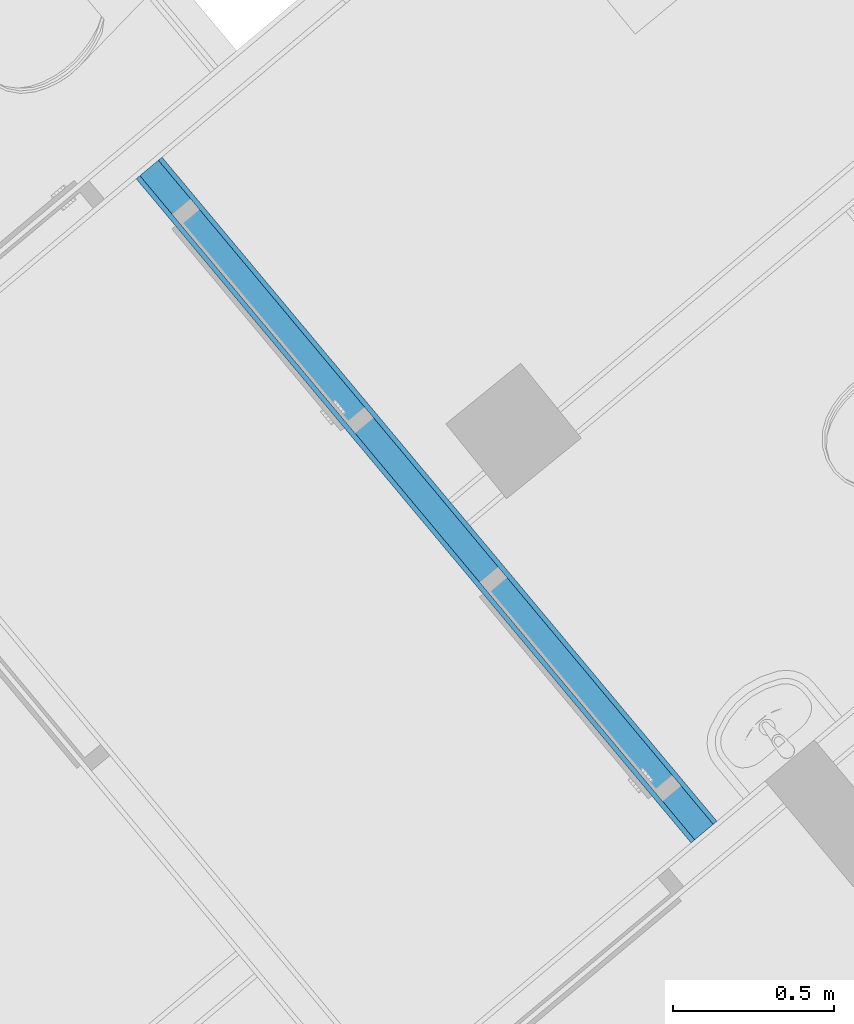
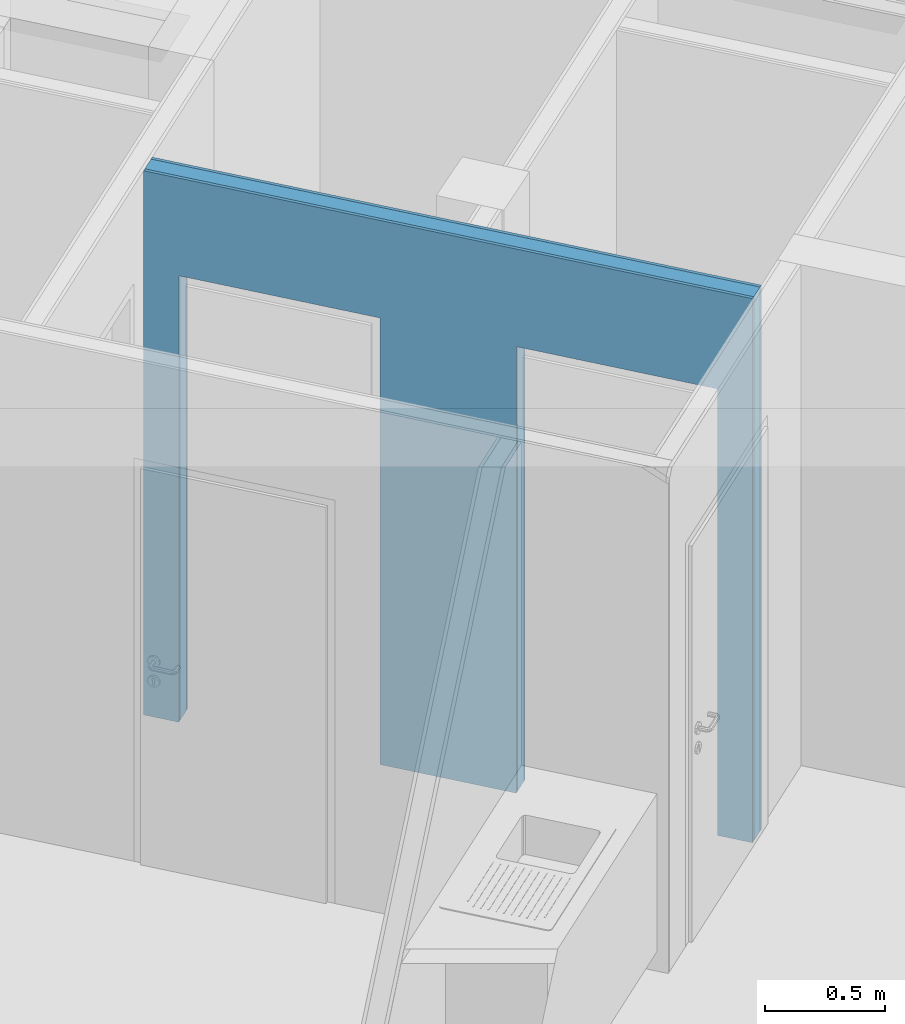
# One storey, part 11 of 53: 3 building element parts, 2 openings, 1 element without a shape of its own.
"""IFC4 building model written with IfcOpenShell, lengths in metres."""

from ifc_helpers import new_model, entity, si_unit, converted_unit, derived_unit, direction, frame, origin_with_axes, place, context, subcontext, project, spatial, polygons, material, type_object, element, aggregate, save


model = new_model("IFC4")

# Units and contexts
model_context = context("Model", 3, precision=1e-05, world=origin_with_axes(), true_north=direction((0.0, 1.0)))
body_context = subcontext(model_context, "Body", "Model", "MODEL_VIEW")
ifc_project = project(units=[si_unit("LENGTHUNIT", "METRE"), si_unit("AREAUNIT", "SQUARE_METRE"), si_unit("VOLUMEUNIT", "CUBIC_METRE"), converted_unit("PLANEANGLEUNIT", "DEGREE", entity("IfcPlaneAngleMeasure", 0.0174532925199), si_unit("PLANEANGLEUNIT", "RADIAN"), dimensions=[0, 0, 0, 0, 0, 0, 0]), converted_unit("TIMEUNIT", "Year", entity("IfcTimeMeasure", 31556926.0), si_unit("TIMEUNIT", "SECOND"), dimensions=[0, 0, 1, 0, 0, 0, 0]), si_unit("MASSUNIT", "GRAM", prefix="KILO"), si_unit("THERMODYNAMICTEMPERATUREUNIT", "DEGREE_CELSIUS"), si_unit("LUMINOUSINTENSITYUNIT", "LUMEN"), si_unit("ENERGYUNIT", "JOULE", prefix="MEGA"), derived_unit("THERMALCONDUCTANCEUNIT", [(si_unit("POWERUNIT", "WATT"), 1), (si_unit("LENGTHUNIT", "METRE"), -1), (si_unit("THERMODYNAMICTEMPERATUREUNIT", "KELVIN"), -1)]), derived_unit("SPECIFICHEATCAPACITYUNIT", [(si_unit("ENERGYUNIT", "JOULE"), 1), (si_unit("MASSUNIT", "GRAM", prefix="KILO"), -1), (si_unit("THERMODYNAMICTEMPERATUREUNIT", "KELVIN"), -1)]), derived_unit("MASSDENSITYUNIT", [(si_unit("MASSUNIT", "GRAM", prefix="KILO"), 1), (si_unit("VOLUMEUNIT", "CUBIC_METRE"), -1)])], contexts=[model_context])

# Site, building, storey
site_placement = place(None, frame((-0.00153261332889, -0.00661245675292, 0.0), z_axis=(0.0, 0.0, 1.0), x_axis=(1.0, 0.0, 0.0)))
site = spatial("IfcSite", under=ifc_project, at=site_placement, Name="Gelände", CompositionType="ELEMENT")
building_placement = place(site_placement, origin_with_axes())
building = spatial("IfcBuilding", under=site, at=building_placement, Name="Gebäude", CompositionType="ELEMENT")
storey_placement = place(building_placement, frame((0.0, 0.0, 2.74), z_axis=(0.0, 0.0, 1.0), x_axis=(1.0, 0.0, 0.0)))
storey = spatial("IfcBuildingStorey", under=building, at=storey_placement, Name="OG1", CompositionType="ELEMENT", Elevation=2.74)

# Wall, openings, building element parts
wall_type = type_object("IfcWallType", Name="IW LB 01 Leichtbautrennwand einfach 10,5 cm 105", PredefinedType="NOTDEFINED")
wall_placement = place(storey_placement, frame((-1.00185448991, 17.6693449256, 0.0), z_axis=(0.0, 0.0, 1.0), x_axis=(-0.641209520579, 0.767365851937, 0.0)))
wall = element("IfcWall", 1, at=wall_placement, inside=storey, type_object=wall_type, Name="Wand-012", PredefinedType="NOTDEFINED")
opening_1_placement = place(wall_placement, frame((0.600343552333, 0.0, 0.22), z_axis=(0.0, 0.0, 1.0), x_axis=(1.0, 0.0, 0.0)))
element("IfcOpeningElement", 2, at=opening_1_placement, cuts=wall, Name="Tür-016", context=body_context, identifier="Reference", shape_type="Tessellation", body=[
    polygons([(-0.445, -1.32697699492, 2.045), (-0.445, -1.32697699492, -0.22), (0.445, -1.32697699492, -0.22), (0.445, -1.32697699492, 2.045), (-0.445, 1.43197699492, 2.045), (-0.445, 1.43197699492, -0.22), (0.445, 1.43197699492, -0.22), (0.445, 1.43197699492, 2.045)], [[[1, 2, 3, 4]], [[5, 6, 2, 1]], [[6, 7, 3, 2]], [[7, 8, 4, 3]], [[8, 5, 1, 4]], [[7, 6, 5, 8]]], closed=True),
])
opening_2_placement = place(wall_placement, frame((2.09376015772, 0.0, 0.22), z_axis=(0.0, 0.0, 1.0), x_axis=(1.0, 0.0, 0.0)))
element("IfcOpeningElement", 3, at=opening_2_placement, cuts=wall, Name="Tür-016", context=body_context, identifier="Reference", shape_type="Tessellation", body=[
    polygons([(-0.445, -1.32697699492, 2.045), (-0.445, -1.32697699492, -0.22), (0.445, -1.32697699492, -0.22), (0.445, -1.32697699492, 2.045), (-0.445, 1.43197699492, 2.045), (-0.445, 1.43197699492, -0.22), (0.445, 1.43197699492, -0.22), (0.445, 1.43197699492, 2.045)], [[[1, 2, 3, 4]], [[5, 6, 2, 1]], [[6, 7, 3, 2]], [[7, 8, 4, 3]], [[8, 5, 1, 4]], [[7, 6, 5, 8]]], closed=True),
])
ifc_material_1 = material(Name="Gipskarton")
building_element_part_1_placement = place(wall_placement, origin_with_axes())
building_element_part_1 = element("IfcBuildingElementPart", 4, at=building_element_part_1_placement, material=ifc_material_1, Name="Gipskarton", PredefinedType="NOTDEFINED", context=body_context, shape_type="Tessellation", body=[
    polygons([(2.53876015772, 0.09, 2.265), (2.53876015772, 0.09, 0.22), (2.53876015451, 0.09, 0.0), (2.69484355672, 0.09, 0.0), (2.69484355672, 0.09, 2.76), (0.0, 0.09, 2.76), (0.0, 0.09, 0.0), (0.155343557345, 0.09, 0.0), (0.155343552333, 0.09, 0.22), (0.155343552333, 0.09, 2.265), (1.04534355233, 0.09, 2.265), (1.04534355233, 0.09, 0.22), (1.04534353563, 0.09, 0.0), (1.64876015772, 0.09, 0.0), (1.64876015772, 0.09, 0.22), (1.64876015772, 0.09, 2.265), (2.53876015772, 0.105, 2.265), (2.53876015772, 0.105, 0.22), (2.53876015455, 0.105, 0.0), (2.69484355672, 0.105, 0.0), (2.69484355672, 0.105, 2.76), (0.0, 0.105, 2.76), (0.0, 0.105, 0.0), (0.155343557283, 0.105, 0.0), (0.155343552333, 0.105, 0.22), (0.155343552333, 0.105, 2.265), (1.04534355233, 0.105, 2.265), (1.04534355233, 0.105, 0.22), (1.04534353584, 0.105, 0.0), (1.64876015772, 0.105, 0.0), (1.64876015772, 0.105, 0.22), (1.64876015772, 0.105, 2.265)], [[[1, 2, 3, 4, 5, 6, 7, 8, 9, 10, 11, 12, 13, 14, 15, 16]], [[2, 1, 17, 18]], [[2, 18, 19, 3]], [[20, 4, 3, 19]], [[21, 5, 4, 20]], [[21, 22, 6, 5]], [[7, 6, 22, 23]], [[7, 23, 24, 8]], [[9, 8, 24, 25]], [[9, 25, 26, 10]], [[10, 26, 27, 11]], [[11, 27, 28, 12]], [[28, 29, 13, 12]], [[13, 29, 30, 14]], [[31, 15, 14, 30]], [[16, 15, 31, 32]], [[1, 16, 32, 17]], [[32, 31, 30, 29, 28, 27, 26, 25, 24, 23, 22, 21, 20, 19, 18, 17]]], closed=True),
])
ifc_material_2 = material(Name="Mineralwolle weich")
building_element_part_2_placement = place(wall_placement, origin_with_axes())
building_element_part_2 = element("IfcBuildingElementPart", 5, at=building_element_part_2_placement, material=ifc_material_2, Name="Mineralwolle weich", PredefinedType="NOTDEFINED", context=body_context, shape_type="Tessellation", body=[
    polygons([(2.53876015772, 0.015, 2.265), (2.53876015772, 0.015, 0.22), (2.53876015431, 0.015, 0.0), (2.69484355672, 0.015, 0.0), (2.69484355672, 0.015, 2.76), (0.0, 0.015, 2.76), (0.0, 0.015, 0.0), (0.155343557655, 0.015, 0.0), (0.155343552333, 0.015, 0.22), (0.155343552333, 0.015, 2.265), (1.04534355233, 0.015, 2.265), (1.04534355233, 0.015, 0.22), (1.0453435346, 0.015, 0.0), (1.64876015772, 0.015, 0.0), (1.64876015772, 0.015, 0.22), (1.64876015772, 0.015, 2.265), (2.53876015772, 0.09, 2.265), (2.53876015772, 0.09, 0.22), (2.53876015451, 0.09, 0.0), (2.69484355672, 0.09, 0.0), (2.69484355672, 0.09, 2.76), (0.0, 0.09, 2.76), (0.0, 0.09, 0.0), (0.155343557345, 0.09, 0.0), (0.155343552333, 0.09, 0.22), (0.155343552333, 0.09, 2.265), (1.04534355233, 0.09, 2.265), (1.04534355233, 0.09, 0.22), (1.04534353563, 0.09, 0.0), (1.64876015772, 0.09, 0.0), (1.64876015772, 0.09, 0.22), (1.64876015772, 0.09, 2.265)], [[[1, 2, 3, 4, 5, 6, 7, 8, 9, 10, 11, 12, 13, 14, 15, 16]], [[2, 1, 17, 18]], [[2, 18, 19, 3]], [[20, 4, 3, 19]], [[21, 5, 4, 20]], [[21, 22, 6, 5]], [[7, 6, 22, 23]], [[7, 23, 24, 8]], [[9, 8, 24, 25]], [[9, 25, 26, 10]], [[10, 26, 27, 11]], [[11, 27, 28, 12]], [[28, 29, 13, 12]], [[13, 29, 30, 14]], [[31, 15, 14, 30]], [[16, 15, 31, 32]], [[1, 16, 32, 17]], [[32, 31, 30, 29, 28, 27, 26, 25, 24, 23, 22, 21, 20, 19, 18, 17]]], closed=True),
])
building_element_part_3_placement = place(wall_placement, origin_with_axes())
building_element_part_3 = element("IfcBuildingElementPart", 6, at=building_element_part_3_placement, material=ifc_material_1, Name="Gipskarton", PredefinedType="NOTDEFINED", context=body_context, shape_type="Tessellation", body=[
    polygons([(2.53876015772, 1.70691709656e-08, 2.265), (2.53876015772, 1.87500486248e-08, 0.22), (2.53876015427, 1.87500468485e-08, 0.0), (2.69484355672, 0.0, 0.0), (2.69484355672, 0.0, 2.76), (0.0, 0.0, 2.76), (0.0, 0.0, 0.0), (0.155343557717, 1.84442470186e-08, 0.0), (0.155343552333, 1.84442470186e-08, 0.22), (0.155343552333, 1.70691709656e-08, 2.265), (1.04534355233, 1.70691727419e-08, 2.265), (1.04534355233, -1.23921441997e-08, 0.22), (1.04534353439, -1.23921424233e-08, 0.0), (1.64876015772, 1.70691727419e-08, 0.0), (1.64876015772, 1.70691709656e-08, 0.22), (1.64876015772, 1.70691709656e-08, 2.265), (2.53876015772, 0.015, 2.265), (2.53876015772, 0.015, 0.22), (2.53876015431, 0.015, 0.0), (2.69484355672, 0.015, 0.0), (2.69484355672, 0.015, 2.76), (0.0, 0.015, 2.76), (0.0, 0.015, 0.0), (0.155343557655, 0.015, 0.0), (0.155343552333, 0.015, 0.22), (0.155343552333, 0.015, 2.265), (1.04534355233, 0.015, 2.265), (1.04534355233, 0.015, 0.22), (1.0453435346, 0.015, 0.0), (1.64876015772, 0.015, 0.0), (1.64876015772, 0.015, 0.22), (1.64876015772, 0.015, 2.265)], [[[1, 2, 3, 4, 5, 6, 7, 8, 9, 10, 11, 12, 13, 14, 15, 16]], [[2, 1, 17, 18]], [[2, 18, 19, 3]], [[20, 4, 3, 19]], [[21, 5, 4, 20]], [[21, 22, 6, 5]], [[7, 6, 22, 23]], [[7, 23, 24, 8]], [[9, 8, 24, 25]], [[9, 25, 26, 10]], [[10, 26, 27, 11]], [[11, 27, 28, 12]], [[28, 29, 13, 12]], [[13, 29, 30, 14]], [[31, 15, 14, 30]], [[16, 15, 31, 32]], [[1, 16, 32, 17]], [[32, 31, 30, 29, 28, 27, 26, 25, 24, 23, 22, 21, 20, 19, 18, 17]]], closed=True),
])
aggregate(wall, [building_element_part_1, building_element_part_2, building_element_part_3])

save(model, "model.ifc")
